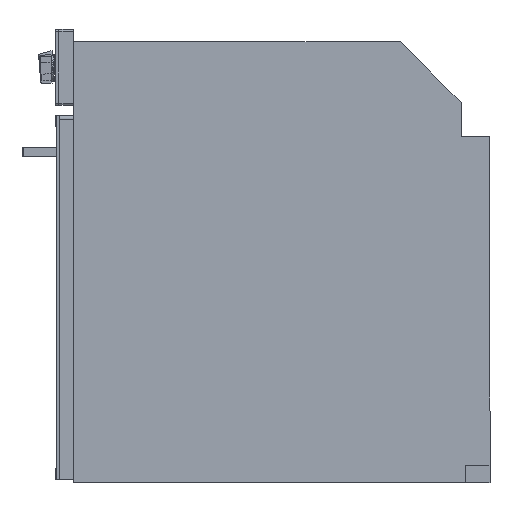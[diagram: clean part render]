
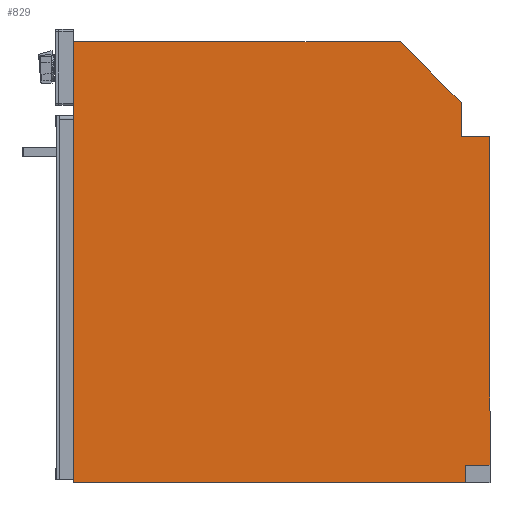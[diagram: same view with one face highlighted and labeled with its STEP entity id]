
A CAD part, left-side view. The second image highlights one B-rep face of the part: STEP entity #829.
In plain terms, the highlighted planar face has unit normal (-1, 0, 0).
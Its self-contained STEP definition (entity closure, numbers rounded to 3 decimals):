
#829=ADVANCED_FACE('',(#1191),#999,.T.);
#999=PLANE('',#4386);
#1191=FACE_OUTER_BOUND('',#1460,.T.);
#1460=EDGE_LOOP('',(#2389,#2390,#2391,#2392,#2393,#2394,#2395,#2396,#2397));
#2389=ORIENTED_EDGE('',*,*,#3351,.T.);
#2390=ORIENTED_EDGE('',*,*,#3358,.T.);
#2391=ORIENTED_EDGE('',*,*,#3361,.T.);
#2392=ORIENTED_EDGE('',*,*,#3364,.T.);
#2393=ORIENTED_EDGE('',*,*,#3367,.T.);
#2394=ORIENTED_EDGE('',*,*,#3370,.T.);
#2395=ORIENTED_EDGE('',*,*,#3373,.T.);
#2396=ORIENTED_EDGE('',*,*,#3345,.T.);
#2397=ORIENTED_EDGE('',*,*,#3381,.T.);
#2852=VERTEX_POINT('',#7071);
#2853=VERTEX_POINT('',#7073);
#2858=VERTEX_POINT('',#7086);
#2859=VERTEX_POINT('',#7087);
#2864=VERTEX_POINT('',#7100);
#2866=VERTEX_POINT('',#7106);
#2868=VERTEX_POINT('',#7112);
#2870=VERTEX_POINT('',#7118);
#2872=VERTEX_POINT('',#7124);
#3345=EDGE_CURVE('',#2853,#2852,#3715,.T.);
#3351=EDGE_CURVE('',#2858,#2859,#3721,.T.);
#3358=EDGE_CURVE('',#2859,#2864,#3728,.T.);
#3361=EDGE_CURVE('',#2864,#2866,#3731,.T.);
#3364=EDGE_CURVE('',#2866,#2868,#3734,.T.);
#3367=EDGE_CURVE('',#2868,#2870,#3737,.T.);
#3370=EDGE_CURVE('',#2870,#2872,#3740,.T.);
#3373=EDGE_CURVE('',#2872,#2853,#3743,.T.);
#3381=EDGE_CURVE('',#2852,#2858,#3751,.T.);
#3715=LINE('',#7072,#4036);
#3721=LINE('',#7085,#4042);
#3728=LINE('',#7099,#4049);
#3731=LINE('',#7105,#4052);
#3734=LINE('',#7111,#4055);
#3737=LINE('',#7117,#4058);
#3740=LINE('',#7123,#4061);
#3743=LINE('',#7129,#4064);
#3751=LINE('',#7141,#4072);
#4036=VECTOR('',#5271,1.);
#4042=VECTOR('',#5281,1.);
#4049=VECTOR('',#5290,1.);
#4052=VECTOR('',#5295,1.);
#4055=VECTOR('',#5300,1.);
#4058=VECTOR('',#5305,1.);
#4061=VECTOR('',#5310,1.);
#4064=VECTOR('',#5315,1.);
#4072=VECTOR('',#5327,1.);
#4386=AXIS2_PLACEMENT_3D('',#7144,#5332,#5333);
#5271=DIRECTION('',(0.,0.,1.));
#5281=DIRECTION('',(0.,0.,1.));
#5290=DIRECTION('',(0.,1.,0.));
#5295=DIRECTION('',(0.,0.,1.));
#5300=DIRECTION('',(0.,0.707,0.707));
#5305=DIRECTION('',(0.,1.,0.));
#5310=DIRECTION('',(0.,0.,-1.));
#5315=DIRECTION('',(0.,-1.,0.));
#5327=DIRECTION('',(0.,-1.,0.));
#5332=DIRECTION('',(-1.,0.,0.));
#5333=DIRECTION('',(0.,0.,1.));
#7071=CARTESIAN_POINT('',(-275.,32.,23.));
#7072=CARTESIAN_POINT('',(-275.,32.,0.));
#7073=CARTESIAN_POINT('',(-275.,32.,0.));
#7085=CARTESIAN_POINT('',(-275.,0.,23.));
#7086=CARTESIAN_POINT('',(-275.,0.,23.));
#7087=CARTESIAN_POINT('',(-275.,0.,455.));
#7099=CARTESIAN_POINT('',(-275.,0.,455.));
#7100=CARTESIAN_POINT('',(-275.,38.,455.));
#7105=CARTESIAN_POINT('',(-275.,38.,455.));
#7106=CARTESIAN_POINT('',(-275.,38.,500.));
#7111=CARTESIAN_POINT('',(-275.,38.,500.));
#7112=CARTESIAN_POINT('',(-275.,118.,580.));
#7117=CARTESIAN_POINT('',(-275.,118.,580.));
#7118=CARTESIAN_POINT('',(-275.,548.,580.));
#7123=CARTESIAN_POINT('',(-275.,548.,580.));
#7124=CARTESIAN_POINT('',(-275.,548.,0.));
#7129=CARTESIAN_POINT('',(-275.,548.,0.));
#7141=CARTESIAN_POINT('',(-275.,32.,23.));
#7144=CARTESIAN_POINT('',(-275.,0.,0.));
